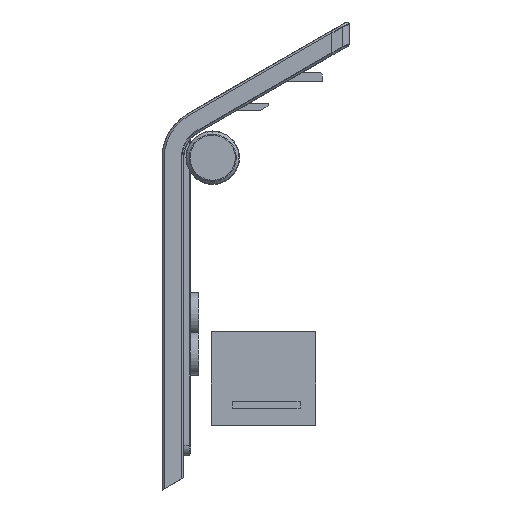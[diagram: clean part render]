
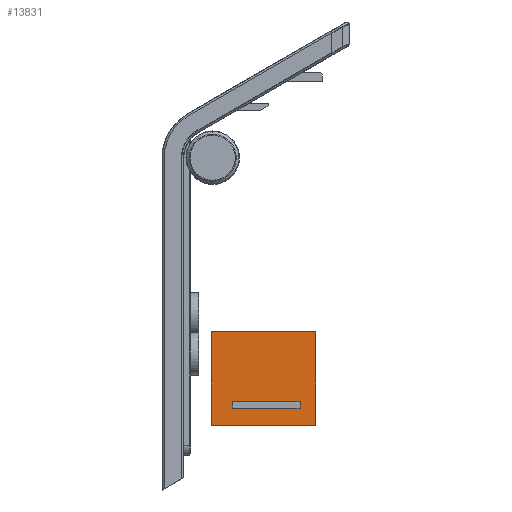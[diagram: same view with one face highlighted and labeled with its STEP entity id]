
A CAD part, left-side view. The second image highlights one B-rep face of the part: STEP entity #13831.
In plain terms, the highlighted planar face has unit normal (-1, 0, 0) as drawn and (1, 0, 0) by its records, which use the part's own axes.
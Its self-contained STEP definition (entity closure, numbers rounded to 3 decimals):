
#275 = CARTESIAN_POINT ( 'NONE',  ( 63.595, -297.964, -7.104 ) ) ;
#361 = EDGE_CURVE ( 'NONE', #7536, #10989, #6744, .T. ) ;
#758 = LINE ( 'NONE', #12522, #17319 ) ;
#1071 = EDGE_CURVE ( 'NONE', #3657, #12292, #14049, .T. ) ;
#1364 = VECTOR ( 'NONE', #6578, 1000. ) ;
#1719 = DIRECTION ( 'NONE',  ( 0., 1., 0. ) ) ;
#1904 = VERTEX_POINT ( 'NONE', #10171 ) ;
#2394 = CARTESIAN_POINT ( 'NONE',  ( 63.595, -284.964, 5.196 ) ) ;
#2512 = CARTESIAN_POINT ( 'NONE',  ( 63.595, -297.964, -9.304 ) ) ;
#2811 = DIRECTION ( 'NONE',  ( 0., -1., 0. ) ) ;
#3061 = CARTESIAN_POINT ( 'NONE',  ( 63.595, -297.964, -9.304 ) ) ;
#3153 = FACE_BOUND ( 'NONE', #16873, .T. ) ;
#3165 = EDGE_CURVE ( 'NONE', #13196, #10989, #11190, .T. ) ;
#3505 = VECTOR ( 'NONE', #5633, 1000. ) ;
#3657 = VERTEX_POINT ( 'NONE', #13757 ) ;
#4282 = VECTOR ( 'NONE', #15004, 1000. ) ;
#4644 = DIRECTION ( 'NONE',  ( 0., 0., 1. ) ) ;
#4711 = LINE ( 'NONE', #14986, #4282 ) ;
#5103 = CARTESIAN_POINT ( 'NONE',  ( 63.595, -297.964, -9.304 ) ) ;
#5139 = ORIENTED_EDGE ( 'NONE', *, *, #3165, .T. ) ;
#5562 = EDGE_CURVE ( 'NONE', #13714, #13196, #758, .T. ) ;
#5633 = DIRECTION ( 'NONE',  ( 0., -1., 0. ) ) ;
#6578 = DIRECTION ( 'NONE',  ( 0., -1., 0. ) ) ;
#6634 = EDGE_CURVE ( 'NONE', #12292, #11678, #17165, .T. ) ;
#6744 = LINE ( 'NONE', #5103, #13895 ) ;
#6800 = LINE ( 'NONE', #9248, #3505 ) ;
#7507 = EDGE_CURVE ( 'NONE', #13714, #7536, #13244, .T. ) ;
#7536 = VERTEX_POINT ( 'NONE', #2512 ) ;
#8185 = EDGE_LOOP ( 'NONE', ( #5139, #9738, #16059, #13213 ) ) ;
#8512 = ORIENTED_EDGE ( 'NONE', *, *, #1071, .F. ) ;
#9244 = CARTESIAN_POINT ( 'NONE',  ( 63.595, -294.664, -9.304 ) ) ;
#9248 = CARTESIAN_POINT ( 'NONE',  ( 63.595, -297.964, 2.296 ) ) ;
#9571 = FACE_OUTER_BOUND ( 'NONE', #8185, .T. ) ;
#9738 = ORIENTED_EDGE ( 'NONE', *, *, #361, .F. ) ;
#9822 = DIRECTION ( 'NONE',  ( 0., -1., 0. ) ) ;
#9883 = DIRECTION ( 'NONE',  ( -1., 0., 0. ) ) ;
#10082 = CARTESIAN_POINT ( 'NONE',  ( 63.595, -297.964, -9.304 ) ) ;
#10171 = CARTESIAN_POINT ( 'NONE',  ( 63.595, -295.564, 2.296 ) ) ;
#10803 = PLANE ( 'NONE',  #15779 ) ;
#10897 = VECTOR ( 'NONE', #14115, 1000. ) ;
#10989 = VERTEX_POINT ( 'NONE', #14339 ) ;
#11190 = LINE ( 'NONE', #15508, #1364 ) ;
#11532 = EDGE_CURVE ( 'NONE', #1904, #3657, #4711, .T. ) ;
#11678 = VERTEX_POINT ( 'NONE', #13504 ) ;
#12141 = CARTESIAN_POINT ( 'NONE',  ( 63.595, -294.664, -7.104 ) ) ;
#12292 = VERTEX_POINT ( 'NONE', #12141 ) ;
#12415 = ORIENTED_EDGE ( 'NONE', *, *, #6634, .F. ) ;
#12452 = DIRECTION ( 'NONE',  ( 0., 0., 1. ) ) ;
#12522 = CARTESIAN_POINT ( 'NONE',  ( 63.595, -284.964, -9.304 ) ) ;
#12984 = ORIENTED_EDGE ( 'NONE', *, *, #11532, .F. ) ;
#13106 = VECTOR ( 'NONE', #2811, 1000. ) ;
#13196 = VERTEX_POINT ( 'NONE', #2394 ) ;
#13213 = ORIENTED_EDGE ( 'NONE', *, *, #5562, .T. ) ;
#13244 = LINE ( 'NONE', #3061, #13106 ) ;
#13504 = CARTESIAN_POINT ( 'NONE',  ( 63.595, -294.664, 2.296 ) ) ;
#13714 = VERTEX_POINT ( 'NONE', #15967 ) ;
#13757 = CARTESIAN_POINT ( 'NONE',  ( 63.595, -295.564, -7.104 ) ) ;
#13785 = ORIENTED_EDGE ( 'NONE', *, *, #16349, .F. ) ;
#13831 = ADVANCED_FACE ( 'NONE', ( #9571, #3153 ), #10803, .F. ) ;
#13895 = VECTOR ( 'NONE', #4644, 1000. ) ;
#14049 = LINE ( 'NONE', #275, #15829 ) ;
#14115 = DIRECTION ( 'NONE',  ( 0., 0., 1. ) ) ;
#14339 = CARTESIAN_POINT ( 'NONE',  ( 63.595, -297.964, 5.196 ) ) ;
#14986 = CARTESIAN_POINT ( 'NONE',  ( 63.595, -295.564, -9.304 ) ) ;
#15004 = DIRECTION ( 'NONE',  ( 0., 0., -1. ) ) ;
#15508 = CARTESIAN_POINT ( 'NONE',  ( 63.595, -284.964, 5.196 ) ) ;
#15779 = AXIS2_PLACEMENT_3D ( 'NONE', #10082, #9883, #9822 ) ;
#15829 = VECTOR ( 'NONE', #1719, 1000. ) ;
#15967 = CARTESIAN_POINT ( 'NONE',  ( 63.595, -284.964, -9.304 ) ) ;
#16059 = ORIENTED_EDGE ( 'NONE', *, *, #7507, .F. ) ;
#16349 = EDGE_CURVE ( 'NONE', #11678, #1904, #6800, .T. ) ;
#16873 = EDGE_LOOP ( 'NONE', ( #8512, #12984, #13785, #12415 ) ) ;
#17165 = LINE ( 'NONE', #9244, #10897 ) ;
#17319 = VECTOR ( 'NONE', #12452, 1000. ) ;
